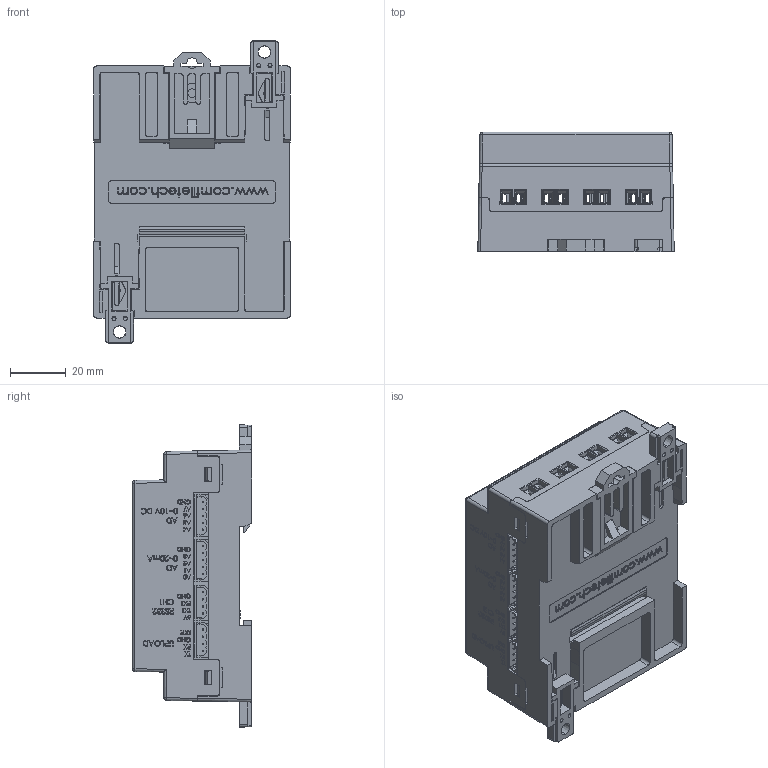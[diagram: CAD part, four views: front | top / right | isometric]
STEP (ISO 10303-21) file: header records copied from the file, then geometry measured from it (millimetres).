
FILE_DESCRIPTION (( 'STEP AP214' ), '1' );
FILE_NAME ('FA-DUINO-12RA(µ¹Ãâ).STEP', '2016-02-17T08:00:12', ( 'Registered User' ), ( 'Microsoft Corporation' ), 'SwSTEP 2.0', 'SolidWorks 2014', '' );
FILE_SCHEMA (( 'AUTOMOTIVE_DESIGN' ));
Length unit declared in the file: millimetre
Products named in the file (1): FA-DUINO-12RA(給轎)
Bounding box: 70.5 x 42.9 x 108.5 mm (x, y, z)
Surface area: 47030 mm2 (no closed solid volume)
Topology: 0 solids, 285 shells, 1576 faces, 8466 edges, 7148 vertices
Faces by surface type: plane 1192, cylinder 169, bspline 111, cone 62, torus 34, sphere 8
Entity records: 127978 total; most frequent: CARTESIAN_POINT 50115, ORIENTED_EDGE 11300, DIRECTION 9918, EDGE_CURVE 8458, VERTEX_POINT 7148, LINE 5942, VECTOR 5942, EDGE_LOOP 1992
